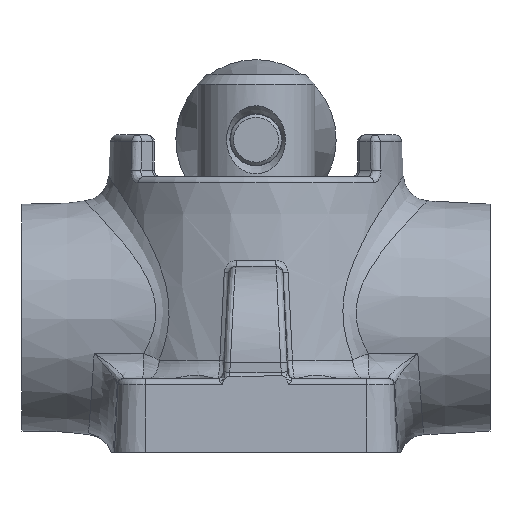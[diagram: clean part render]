
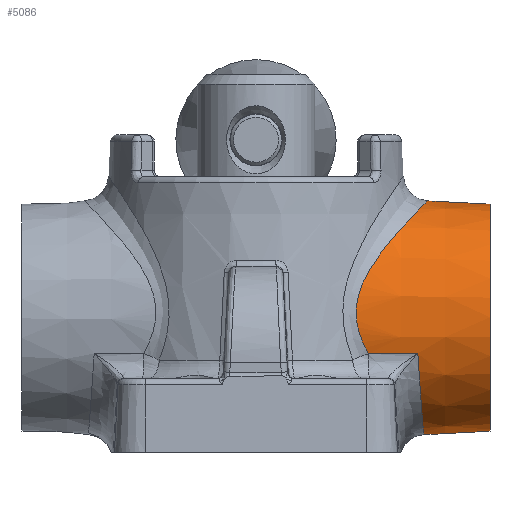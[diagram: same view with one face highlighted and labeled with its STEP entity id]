
A CAD part, left-side view. The second image highlights one B-rep face of the part: STEP entity #5086.
In plain terms, the highlighted conical face has half-angle 3 degrees and reference radius 17.5 mm.
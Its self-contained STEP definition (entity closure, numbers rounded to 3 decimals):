
#98=CONICAL_SURFACE('',#5389,17.5,0.052);
#457=B_SPLINE_CURVE_WITH_KNOTS('',3,(#7068,#7069,#7070,#7071,#7072,#7073,
#7074,#7075,#7076,#7077,#7078,#7079,#7080,#7081,#7082,#7083,#7084,#7085,
#7086),.UNSPECIFIED.,.F.,.F.,(4,1,1,1,1,1,1,1,1,1,1,1,1,1,1,1,4),(0.,
0.003,0.007,0.01,0.014,
0.015,0.017,0.021,0.024,
0.027,0.034,0.038,0.041,
0.045,0.048,0.051,0.055),
 .UNSPECIFIED.);
#458=B_SPLINE_CURVE_WITH_KNOTS('',3,(#7089,#7090,#7091,#7092),
 .UNSPECIFIED.,.F.,.F.,(4,4),(0.002,0.009),
 .UNSPECIFIED.);
#459=B_SPLINE_CURVE_WITH_KNOTS('',3,(#7094,#7095,#7096,#7097,#7098,#7099,
#7100,#7101,#7102),.UNSPECIFIED.,.F.,.F.,(4,1,1,1,1,1,4),(-0.004,
0.001,0.004,0.007,0.01,
0.013,0.019),.UNSPECIFIED.);
#460=B_SPLINE_CURVE_WITH_KNOTS('',3,(#7104,#7105,#7106,#7107,#7108,#7109,
#7110),.UNSPECIFIED.,.F.,.F.,(4,1,1,1,4),(0.,0.004,0.008,
0.012,0.016),.UNSPECIFIED.);
#461=B_SPLINE_CURVE_WITH_KNOTS('',3,(#7112,#7113,#7114,#7115,#7116,#7117,
#7118,#7119,#7120,#7121,#7122,#7123,#7124,#7125),.UNSPECIFIED.,.F.,.F.,
(4,1,1,1,1,1,1,1,1,1,1,4),(0.003,0.006,0.01,
0.012,0.014,0.016,0.018,
0.022,0.024,0.026,0.03,
0.034),.UNSPECIFIED.);
#588=ORIENTED_EDGE('',*,*,#1575,.T.);
#589=ORIENTED_EDGE('',*,*,#1576,.T.);
#590=ORIENTED_EDGE('',*,*,#1577,.T.);
#591=ORIENTED_EDGE('',*,*,#1578,.T.);
#592=ORIENTED_EDGE('',*,*,#1579,.T.);
#593=ORIENTED_EDGE('',*,*,#1580,.T.);
#1575=EDGE_CURVE('',#2068,#2068,#2397,.T.);
#1576=EDGE_CURVE('',#2069,#2070,#457,.T.);
#1577=EDGE_CURVE('',#2070,#2071,#458,.T.);
#1578=EDGE_CURVE('',#2071,#2072,#459,.T.);
#1579=EDGE_CURVE('',#2072,#2073,#460,.T.);
#1580=EDGE_CURVE('',#2073,#2069,#461,.T.);
#2068=VERTEX_POINT('',#7067);
#2069=VERTEX_POINT('',#7087);
#2070=VERTEX_POINT('',#7088);
#2071=VERTEX_POINT('',#7093);
#2072=VERTEX_POINT('',#7103);
#2073=VERTEX_POINT('',#7111);
#2397=CIRCLE('',#5390,17.71);
#2654=EDGE_LOOP('',(#588));
#2655=EDGE_LOOP('',(#589,#590,#591,#592,#593));
#3039=FACE_BOUND('',#2654,.T.);
#3040=FACE_BOUND('',#2655,.T.);
#5086=ADVANCED_FACE('',(#3039,#3040),#98,.T.);
#5389=AXIS2_PLACEMENT_3D('',#7065,#5902,#5903);
#5390=AXIS2_PLACEMENT_3D('',#7066,#5904,#5905);
#5902=DIRECTION('',(0.,1.,0.));
#5903=DIRECTION('',(0.,0.,-1.));
#5904=DIRECTION('',(0.,1.,0.));
#5905=DIRECTION('',(0.,0.,1.));
#7065=CARTESIAN_POINT('',(0.,-40.5,24.5));
#7066=CARTESIAN_POINT('',(0.,-36.5,24.5));
#7067=CARTESIAN_POINT('',(0.,-36.5,42.21));
#7068=CARTESIAN_POINT('',(14.022,-21.06,36.597));
#7069=CARTESIAN_POINT('',(13.361,-21.66,37.314));
#7070=CARTESIAN_POINT('',(11.92,-22.843,38.655));
#7071=CARTESIAN_POINT('',(9.415,-24.428,40.341));
#7072=CARTESIAN_POINT('',(6.536,-25.73,41.67));
#7073=CARTESIAN_POINT('',(3.831,-26.454,42.391));
#7074=CARTESIAN_POINT('',(1.612,-26.742,42.676));
#7075=CARTESIAN_POINT('',(-0.689,-26.834,42.767));
#7076=CARTESIAN_POINT('',(-3.499,-26.56,42.497));
#7077=CARTESIAN_POINT('',(-6.715,-25.664,41.604));
#7078=CARTESIAN_POINT('',(-10.532,-23.898,39.795));
#7079=CARTESIAN_POINT('',(-13.587,-21.583,37.298));
#7080=CARTESIAN_POINT('',(-15.954,-19.161,34.241));
#7081=CARTESIAN_POINT('',(-17.366,-17.451,31.67));
#7082=CARTESIAN_POINT('',(-18.406,-16.033,28.697));
#7083=CARTESIAN_POINT('',(-18.907,-15.408,25.305));
#7084=CARTESIAN_POINT('',(-18.691,-16.044,21.85));
#7085=CARTESIAN_POINT('',(-18.172,-17.012,19.847));
#7086=CARTESIAN_POINT('',(-17.844,-17.554,18.897));
#7087=CARTESIAN_POINT('',(14.022,-21.06,36.597));
#7088=CARTESIAN_POINT('',(-17.844,-17.554,18.897));
#7089=CARTESIAN_POINT('',(-17.844,-17.554,18.897));
#7090=CARTESIAN_POINT('',(-17.705,-20.116,18.903));
#7091=CARTESIAN_POINT('',(-17.566,-22.678,18.909));
#7092=CARTESIAN_POINT('',(-17.426,-25.24,18.914));
#7093=CARTESIAN_POINT('',(-17.426,-25.24,18.914));
#7094=CARTESIAN_POINT('',(-17.426,-25.24,18.914));
#7095=CARTESIAN_POINT('',(-16.834,-25.361,17.085));
#7096=CARTESIAN_POINT('',(-15.507,-25.536,14.492));
#7097=CARTESIAN_POINT('',(-13.051,-25.739,11.603));
#7098=CARTESIAN_POINT('',(-10.855,-25.876,9.716));
#7099=CARTESIAN_POINT('',(-8.436,-25.99,8.221));
#7100=CARTESIAN_POINT('',(-4.883,-26.111,6.729));
#7101=CARTESIAN_POINT('',(-2.059,-26.162,6.263));
#7102=CARTESIAN_POINT('',(-0.132,-26.177,6.25));
#7103=CARTESIAN_POINT('',(-0.132,-26.177,6.25));
#7104=CARTESIAN_POINT('',(-0.132,-26.177,6.25));
#7105=CARTESIAN_POINT('',(1.254,-26.188,6.24));
#7106=CARTESIAN_POINT('',(3.999,-25.859,6.525));
#7107=CARTESIAN_POINT('',(7.709,-24.488,7.719));
#7108=CARTESIAN_POINT('',(10.893,-22.492,9.482));
#7109=CARTESIAN_POINT('',(12.62,-20.929,10.893));
#7110=CARTESIAN_POINT('',(13.411,-20.1,11.657));
#7111=CARTESIAN_POINT('',(13.411,-20.1,11.657));
#7112=CARTESIAN_POINT('',(13.411,-20.1,11.657));
#7113=CARTESIAN_POINT('',(14.006,-21.033,12.348));
#7114=CARTESIAN_POINT('',(15.148,-22.832,13.873));
#7115=CARTESIAN_POINT('',(16.374,-24.774,16.144));
#7116=CARTESIAN_POINT('',(17.194,-26.076,18.283));
#7117=CARTESIAN_POINT('',(17.679,-26.848,19.989));
#7118=CARTESIAN_POINT('',(18.025,-27.399,21.835));
#7119=CARTESIAN_POINT('',(18.251,-27.76,24.453));
#7120=CARTESIAN_POINT('',(18.079,-27.486,27.066));
#7121=CARTESIAN_POINT('',(17.551,-26.643,29.529));
#7122=CARTESIAN_POINT('',(16.845,-25.521,31.773));
#7123=CARTESIAN_POINT('',(15.69,-23.688,34.24));
#7124=CARTESIAN_POINT('',(14.596,-21.963,35.859));
#7125=CARTESIAN_POINT('',(14.022,-21.06,36.597));
